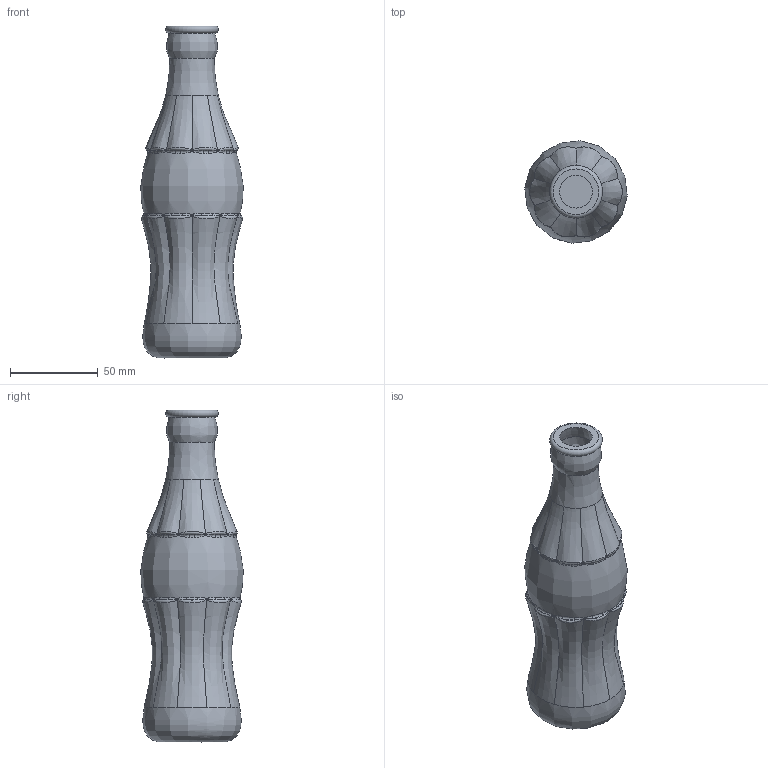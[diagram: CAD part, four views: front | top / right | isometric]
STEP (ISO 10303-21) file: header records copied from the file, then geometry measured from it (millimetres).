
FILE_DESCRIPTION(/* description */ ('STEP AP242','CAx-IF Rec.Pracs.---Representation and Presentation of Product Manufacturing Information (PMI)---4.0---2014-10-13','CAx-IF Rec.Pracs.---3D Tessellated Geometry---0.4---2014-09-14','2;1'),/* implementation_level */ '2;1');
FILE_NAME(/* name */ '68304ad46194cb24dca5a264',/* time_stamp */ '2025-05-23T10:15:50Z',/* author */ (''),/* organization */ (''),/* preprocessor_version */ 'ST-DEVELOPER v20',/* originating_system */ 'ONSHAPE BY PTC INC, 1.198',/* authorisation */ ' ');
FILE_SCHEMA (('AP242_MANAGED_MODEL_BASED_3D_ENGINEERING_MIM_LF { 1 0 10303 442 1 1 4 }'));
Length unit declared in the file: metre
Products named in the file (2): Part 2; Part 1
Bounding box: 58.25 x 58.25 x 188.91 mm (x, y, z)
Volume: 303931 mm3; surface area: 76726.6 mm2
Topology: 2 solids, 2 shells, 141 faces, 353 edges, 214 vertices
Faces by surface type: bspline 87, cone 21, torus 21, plane 12
Entity records: 21841 total; most frequent: CARTESIAN_POINT 19194, ORIENTED_EDGE 672, DIRECTION 344, EDGE_CURVE 336, B_SPLINE_CURVE_WITH_KNOTS 220, VERTEX_POINT 209, AXIS2_PLACEMENT_3D 172, FACE_BOUND 151
